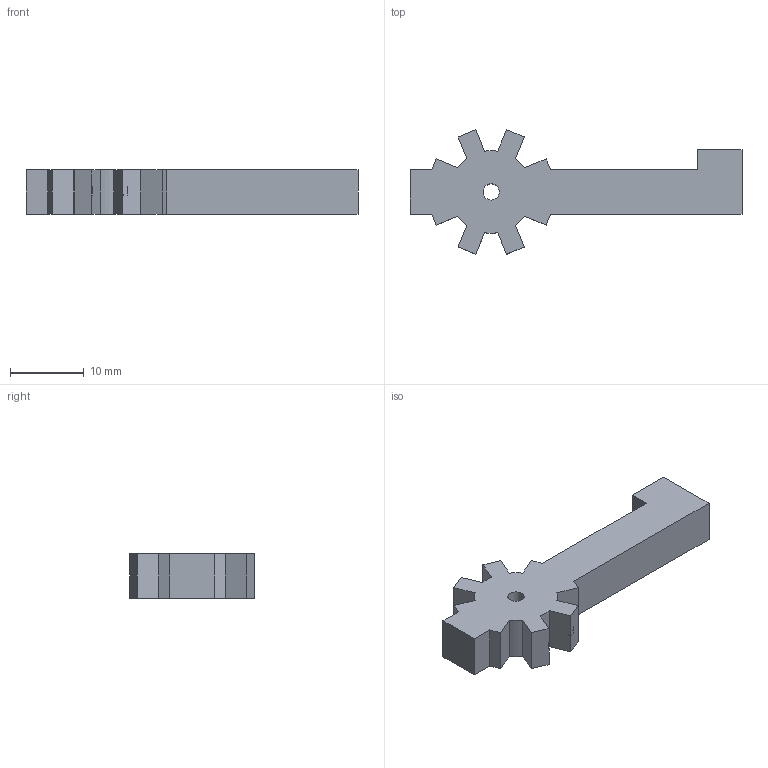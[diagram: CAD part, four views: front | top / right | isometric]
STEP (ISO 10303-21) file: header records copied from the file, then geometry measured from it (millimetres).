
FILE_DESCRIPTION(('Open CASCADE Model'),'2;1');
FILE_NAME('Open CASCADE Shape Model','2026-07-25T17:39:15',('Author'),( 'Open CASCADE'),'Open CASCADE STEP processor 7.9','build123d', 'Unknown');
FILE_SCHEMA(('AUTOMOTIVE_DESIGN { 1 0 10303 214 1 1 1 1 }'));
Length unit declared in the file: millimetre
Products named in the file (2): =>[0:1:1:2]; COMPOUND
Assembly tree (1 placements, depth 2):
  =>[0:1:1:2]
    COMPOUND
Bounding box: 45 x 16.88 x 6 mm (x, y, z)
Volume: 2163.9 mm3; surface area: 1605.8 mm2
Topology: 1 solids, 1 shells, 49 faces, 138 edges, 92 vertices
Faces by surface type: plane 42, cylinder 7
Full cylindrical faces by diameter (mm): 2.2 x1
Entity records: 3326 total; most frequent: CARTESIAN_POINT 623, DIRECTION 464, LINE 320, VECTOR 320, ORIENTED_EDGE 276, PCURVE 276, DEFINITIONAL_REPRESENTATION 276, EDGE_CURVE 138
